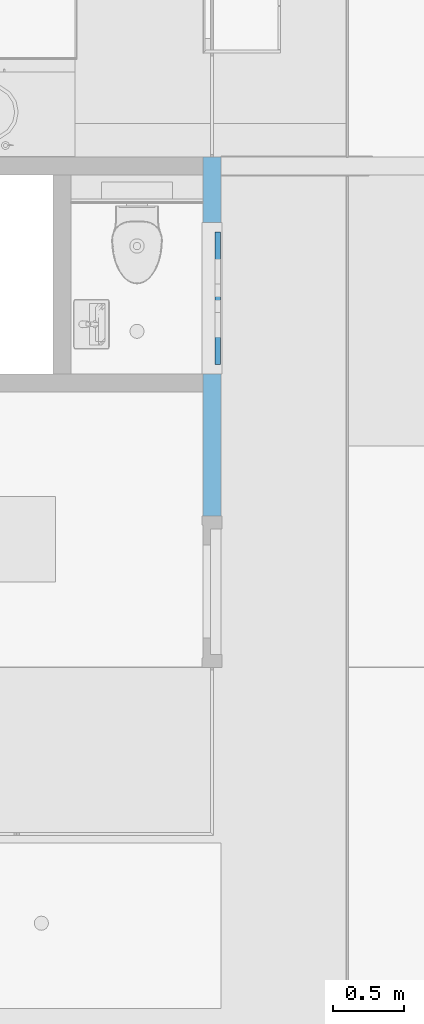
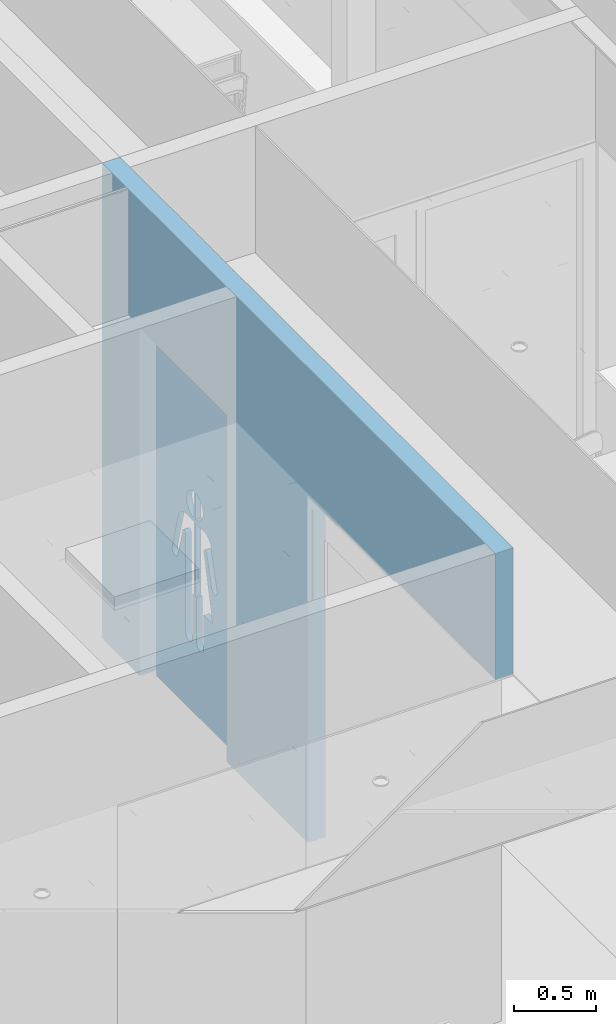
# One storey, part 26 of 260: 1 building element part, 3 openings, 1 element without a shape of its own, plus 1 element that does not belong to this part.
"""IFC2X3 building model written with IfcOpenShell, lengths in millimetres."""

from ifc_helpers import new_model, entity, si_unit, converted_unit, derived_unit, money_unit, direction, frame, origin_with_axes, place, context, subcontext, project, spatial, faceted_brep, material, type_object, element, fill, aggregate, save


model = new_model("IFC2X3")

# Units and contexts
model_context = context("Model", 3, precision=0.01, world=origin_with_axes(), true_north=direction((0.0, 1.0)))
plan_context = context("Plan", 3, precision=0.01, world=origin_with_axes(), true_north=direction((0.0, 1.0)))
body_context = subcontext(model_context, "Body", "Model", "MODEL_VIEW")
ifc_project = project(units=[si_unit("LENGTHUNIT", "METRE", prefix="MILLI"), si_unit("AREAUNIT", "SQUARE_METRE"), si_unit("VOLUMEUNIT", "CUBIC_METRE"), converted_unit("PLANEANGLEUNIT", "DEGREE", entity("IfcPlaneAngleMeasure", 0.0174532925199), si_unit("PLANEANGLEUNIT", "RADIAN"), dimensions=[0, 0, 0, 0, 0, 0, 0]), money_unit("EUR"), converted_unit("TIMEUNIT", "Year", entity("IfcTimeMeasure", 31556926.0), si_unit("TIMEUNIT", "SECOND"), dimensions=[0, 0, 1, 0, 0, 0, 0]), si_unit("MASSUNIT", "GRAM", prefix="KILO"), si_unit("THERMODYNAMICTEMPERATUREUNIT", "DEGREE_CELSIUS"), si_unit("LUMINOUSINTENSITYUNIT", "LUMEN"), si_unit("ENERGYUNIT", "JOULE", prefix="MEGA"), derived_unit("THERMALCONDUCTANCEUNIT", [(si_unit("POWERUNIT", "WATT"), 1), (si_unit("LENGTHUNIT", "METRE"), -1), (si_unit("THERMODYNAMICTEMPERATUREUNIT", "KELVIN"), -1)]), derived_unit("SPECIFICHEATCAPACITYUNIT", [(si_unit("ENERGYUNIT", "JOULE"), 1), (si_unit("MASSUNIT", "GRAM", prefix="KILO"), -1), (si_unit("THERMODYNAMICTEMPERATUREUNIT", "KELVIN"), -1)]), derived_unit("MASSDENSITYUNIT", [(si_unit("MASSUNIT", "GRAM", prefix="KILO"), 1), (si_unit("VOLUMEUNIT", "CUBIC_METRE"), -1)])], contexts=[model_context, plan_context])

# Site, building, storey
site_placement = place(None, origin_with_axes())
site = spatial("IfcSite", under=ifc_project, at=site_placement, Name="Site", CompositionType="ELEMENT")
building_placement = place(site_placement, origin_with_axes())
building = spatial("IfcBuilding", under=site, at=building_placement, Name="Naam gebouw", CompositionType="ELEMENT")
storey_placement = place(building_placement, frame((0.0, 0.0, 3960.0), z_axis=(0.0, 0.0, 1.0), x_axis=(1.0, 0.0, 0.0)))
storey = spatial("IfcBuildingStorey", under=building, at=storey_placement, Name="verdieping", CompositionType="ELEMENT", Elevation=3960.0)

# Wall, openings, door, building element part
ifc_material_1 = material(Name="ALG - LICHTE SCHEIDINGSWAND")
wall_type = type_object("IfcWallType", Name="ALG LSW 125 125", PredefinedType="NOTDEFINED")
wall_placement = place(storey_placement, frame((32075.0, 15290.0, 0.0), z_axis=(0.0, 0.0, 1.0), x_axis=(0.0, 1.0, 0.0)))
wall = element("IfcWall", 1, at=wall_placement, inside=storey, type_object=wall_type, material=ifc_material_1, Name="22_GF 125 ECO DGS/2.75.2A", context=body_context, shape_type="Brep", body=[
    faceted_brep([(2299.0, -125.0, 0.0), (3297.5, -125.0, 0.0), (3297.5, -124.999927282, 2600.0), (4361.5, -124.999927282, 2600.0), (4361.5, -125.0, 0.0), (4822.5, -125.0, 0.0), (4822.5, -125.0, 3560.0), (0.0, -125.0, 3560.0), (0.000133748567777, -124.999927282, 2612.0), (1234.99996939, -124.999927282, 2612.0), (1235.0, -124.999927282, 2600.0), (2299.0, -124.999927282, 2600.0), (2299.0, 0.0, 0.0), (3297.5, 0.0, 0.0), (3297.5, 0.0, 2600.0), (4361.5, 0.0, 2600.0), (4361.5, 0.0, 0.0), (4822.5, 0.0, 0.0), (4822.5, 0.0, 3560.0), (0.0, 0.0, 3560.0), (0.000133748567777, 0.0, 2612.0), (1234.99996939, 0.0, 2612.0), (1235.0, 0.0, 2600.0), (2299.0, 0.0, 2600.0)], [[[0, 1, 2, 3, 4, 5, 6, 7, 8, 9, 10, 11]], [[12, 13, 1, 0]], [[14, 2, 1, 13]], [[15, 3, 2, 14]], [[16, 4, 3, 15]], [[5, 4, 16, 17]], [[17, 18, 6, 5]], [[19, 7, 6, 18]], [[20, 8, 7, 19]], [[9, 8, 20, 21]], [[10, 9, 21, 22]], [[11, 10, 22, 23]], [[0, 11, 23, 12]], [[15, 14, 13, 12, 23, 22, 21, 20, 19, 18, 17, 16]]]),
])
opening_1_placement = place(wall_placement, frame((653.75, 0.0, 0.0), z_axis=(0.0, 0.0, 1.0), x_axis=(1.0, 0.0, 0.0)))
element("IfcOpeningElement", 2, at=opening_1_placement, cuts=wall, Name="31_10.13c", context=body_context, shape_type="Brep", body=[
    faceted_brep([(-403.75, 125.0, 0.0), (581.25, 125.0, 0.0), (581.25, -72.5, 0.0), (-601.25, -72.5, 0.0), (-403.75, 125.0, 2600.0), (581.25, 125.0, 2600.0), (581.25, -72.5, 2600.0), (-601.25, -72.5, 2600.0)], [[[0, 1, 2, 3]], [[4, 5, 1, 0]], [[1, 5, 6, 2]], [[3, 2, 6, 7]], [[0, 3, 7, 4]], [[5, 4, 7, 6]]]),
    faceted_brep([(-653.75, -250.0, 0.0), (-653.75, -250.0, 2600.0), (-653.75, -125.0, 2600.0), (-653.75, -125.0, 0.0), (581.25, -250.0, 0.0), (581.25, -250.0, 2600.0), (581.25, -72.5, 2600.0), (-601.25, -72.5, 2600.0), (-601.25, -72.5, 0.0), (581.25, -72.5, 0.0)], [[[0, 1, 2, 3]], [[0, 4, 5, 1]], [[1, 5, 6, 7, 2]], [[7, 8, 3, 2]], [[4, 0, 3, 8, 9]], [[5, 4, 9, 6]], [[7, 6, 9, 8]]]),
])
opening_2_placement = place(wall_placement, frame((1767.0, 0.0, 0.0), z_axis=(0.0, 0.0, 1.0), x_axis=(1.0, 0.0, 0.0)))
element("IfcOpeningElement", 3, at=opening_2_placement, cuts=wall, Name="32_02.01", context=body_context, shape_type="Brep", body=[
    faceted_brep([(532.0, -125.0, 2600.0), (532.0, -125.0, 0.0), (532.0, 257.0, 0.0), (532.0, 257.0, 2600.0), (-532.0, -125.0, 2600.0), (-532.0, -125.0, 0.0), (-532.0, 257.0, 0.0), (-532.0, 257.0, 2600.0)], [[[0, 1, 2, 3]], [[0, 4, 5, 1]], [[1, 5, 6, 2]], [[3, 2, 6, 7]], [[4, 0, 3, 7]], [[5, 4, 7, 6]]]),
])
opening_3_placement = place(wall_placement, frame((3829.5, 0.0, 0.0), z_axis=(0.0, 0.0, 1.0), x_axis=(1.0, 0.0, 0.0)))
opening_3 = element("IfcOpeningElement", 4, at=opening_3_placement, cuts=wall, Name="32_01.05", context=body_context, shape_type="Brep", body=[
    faceted_brep([(532.0, -257.0, 2600.0), (532.0, -257.0, 0.0), (532.0, 125.0, 0.0), (532.0, 125.0, 2600.0), (-532.0, -257.0, 2600.0), (-532.0, -257.0, 0.0), (-532.0, 125.0, 0.0), (-532.0, 125.0, 2600.0)], [[[0, 1, 2, 3]], [[0, 4, 5, 1]], [[1, 5, 6, 2]], [[3, 2, 6, 7]], [[4, 0, 3, 7]], [[5, 4, 7, 6]]]),
])
door_style = type_object("IfcDoorStyle", Name="D1 25", ConstructionType="NOTDEFINED", OperationType="SINGLE_SWING_LEFT", ParameterTakesPrecedence=False, Sizeable=False)
door_placement = place(opening_3_placement, frame((532.0, 0.0, 0.0), z_axis=(0.0, 0.0, 1.0), x_axis=(-1.0, 0.0, 0.0)))
door = element("IfcDoor", 5, at=door_placement, inside=storey, type_object=door_style, Name="32_01.05", ObjectType="DOOR", OverallHeight=2600.0, OverallWidth=1064.0)
fill(opening_3, door)
ifc_material_2 = material(Name="Hout C")
building_element_part_placement = place(door_placement, origin_with_axes())
building_element_part = element("IfcBuildingElementPart", 6, at=building_element_part_placement, material=ifc_material_2, Name="Hout C", context=body_context, shape_type="Brep", body=[
    faceted_brep([(65.0, 122.0, 2535.0), (65.0, 122.0, 10.0), (65.0, 82.0, 10.0), (65.0, 82.0, 2535.0), (999.0, 122.0, 2535.0), (999.0, 122.0, 10.0), (542.043020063, 122.0, 890.229090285), (557.10752188, 122.0, 890.229090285), (557.10752188, 122.0, 563.286854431), (556.693281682, 122.0, 559.546364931), (557.174283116, 122.0, 552.034934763), (558.950151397, 122.0, 544.721284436), (561.96692765, 122.0, 537.827635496), (566.132948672, 122.0, 531.563447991), (571.321632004, 122.0, 526.119056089), (577.375322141, 122.0, 521.659884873), (584.110080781, 122.0, 518.321424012), (591.321275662, 122.0, 516.205110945), (598.78979831, 122.0, 515.375248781), (606.288721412, 122.0, 515.857052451), (613.590194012, 122.0, 517.635882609), (620.472364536, 122.0, 520.657690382), (626.726121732, 122.0, 524.830659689), (632.161448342, 122.0, 530.027996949), (636.613194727, 122.0, 536.091783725), (639.946096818, 122.0, 542.8377749), (642.058886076, 122.0, 550.06099695), (642.887366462, 122.0, 557.54197595), (642.473126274, 122.0, 563.286854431), (642.473126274, 122.0, 814.780876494), (751.866038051, 122.0, 814.780876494), (640.013455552, 122.0, 1292.61952191), (640.785274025, 122.0, 1296.47224326), (642.199691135, 122.0, 1299.82482097), (644.173819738, 122.0, 1302.8804449), (646.647676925, 122.0, 1305.54627145), (649.546095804, 122.0, 1307.74130085), (652.781009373, 122.0, 1309.39883823), (656.254126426, 122.0, 1310.46852015), (659.859918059, 122.0, 1310.91784487), (663.488824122, 122.0, 1310.73315989), (667.030582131, 122.0, 1309.92007677), (670.377577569, 122.0, 1308.50330061), (673.428113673, 122.0, 1306.52587948), (676.089501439, 122.0, 1304.04789628), (678.280875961, 122.0, 1301.14464328), (679.935653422, 122.0, 1297.90433437), (681.003554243, 122.0, 1294.42542469), (681.227842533, 122.0, 1292.61952191), (739.923578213, 122.0, 1073.19870027), (740.719139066, 122.0, 1070.22315824), (743.317762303, 122.0, 1064.63924071), (746.844929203, 122.0, 1059.59215425), (751.193468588, 122.0, 1055.235252), (756.231252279, 122.0, 1051.70091623), (761.805209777, 122.0, 1049.09653598), (767.745979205, 122.0, 1047.50124399), (773.873053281, 122.0, 1046.96351241), (780.000263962, 122.0, 1047.49967995), (785.941439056, 122.0, 1049.09345542), (791.516058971, 122.0, 1051.69641276), (796.554741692, 122.0, 1055.22946244), (800.904389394, 122.0, 1059.58525451), (804.432840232, 122.0, 1064.63144045), (807.032884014, 122.0, 1070.21469446), (808.625519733, 122.0, 1076.16537218), (809.162355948, 122.0, 1082.30266527), (808.62708117, 122.0, 1088.44009521), (807.831520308, 122.0, 1091.41563724), (733.58891637, 122.0, 1368.954906), (731.31480372, 122.0, 1377.45616444), (723.888136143, 122.0, 1393.40926659), (713.808681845, 122.0, 1407.82822709), (701.382699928, 122.0, 1420.27493311), (686.98774758, 122.0, 1430.37119778), (671.061208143, 122.0, 1437.81025123), (654.087001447, 122.0, 1442.36606156), (636.580882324, 122.0, 1443.51593625), (542.043020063, 122.0, 1443.51593625), (542.043020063, 122.0, 1669.35630499), (542.043020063, 122.0, 1469.16959144), (550.785473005, 122.0, 1470.04970729), (567.699591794, 122.0, 1474.82448312), (583.528996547, 122.0, 1482.46872393), (597.792718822, 122.0, 1492.75016333), (610.057362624, 122.0, 1505.35640498), (619.950272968, 122.0, 1519.90441461), (627.170858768, 122.0, 1535.9521583), (631.499726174, 122.0, 1553.01203348), (632.430107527, 122.0, 1569.26294821), (632.430107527, 122.0, 1578.06409863), (629.378589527, 122.0, 1595.39898096), (623.368272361, 122.0, 1611.93973315), (614.581776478, 122.0, 1627.18377283), (603.286075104, 122.0, 1640.66791757), (589.824382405, 122.0, 1651.98245845), (574.605725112, 122.0, 1660.78360886), (558.092514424, 122.0, 1666.80395031), (521.956979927, 122.0, 1669.35630499), (513.214526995, 122.0, 1668.47618914), (496.300408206, 122.0, 1663.7014133), (480.471003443, 122.0, 1656.05717249), (466.207281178, 122.0, 1645.77573309), (453.942637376, 122.0, 1633.16949145), (444.049727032, 122.0, 1618.62148182), (436.829141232, 122.0, 1602.57373813), (432.500273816, 122.0, 1585.51386294), (431.569892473, 122.0, 1569.26294821), (431.569892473, 122.0, 1560.4617978), (434.621410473, 122.0, 1543.12691547), (440.631727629, 122.0, 1526.58616327), (449.418223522, 122.0, 1511.34212359), (460.713924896, 122.0, 1497.85797885), (474.175617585, 122.0, 1486.54343798), (489.394274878, 122.0, 1477.74228756), (505.907485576, 122.0, 1471.72194611), (521.956979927, 122.0, 1469.16959144), (255.37447873, 122.0, 1088.44895872), (254.837642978, 122.0, 1082.31166558), (255.372918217, 122.0, 1076.17423568), (256.964040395, 122.0, 1070.22315174), (259.562664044, 122.0, 1064.63923441), (263.089831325, 122.0, 1059.59214821), (267.438371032, 122.0, 1055.23524628), (272.476154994, 122.0, 1051.70091091), (278.050112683, 122.0, 1049.09653107), (283.990882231, 122.0, 1047.50123953), (290.117956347, 122.0, 1046.96350842), (296.245166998, 122.0, 1047.49967641), (302.186341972, 122.0, 1049.09345233), (307.760961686, 122.0, 1051.6964101), (312.799644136, 122.0, 1055.22946015), (317.149291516, 122.0, 1059.58525256), (320.677741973, 122.0, 1064.63143877), (323.277785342, 122.0, 1070.21469297), (324.076421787, 122.0, 1073.19870026), (382.988163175, 122.0, 1292.61952191), (383.650624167, 122.0, 1295.95494878), (384.952051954, 122.0, 1299.10211348), (386.779297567, 122.0, 1301.97509819), (389.076841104, 122.0, 1304.48660874), (391.774872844, 122.0, 1306.56033414), (394.791414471, 122.0, 1308.13326528), (398.034809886, 122.0, 1309.15760948), (401.406510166, 122.0, 1309.60224253), (404.804067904, 122.0, 1309.45365449), (408.124250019, 122.0, 1308.71636013), (411.266174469, 122.0, 1307.41276178), (414.134375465, 122.0, 1305.58246859), (416.641704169, 122.0, 1303.2810931), (418.711976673, 122.0, 1300.57856146), (420.282288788, 122.0, 1297.5569887), (421.304927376, 122.0, 1294.3081838), (421.526873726, 122.0, 1292.61952191), (421.526873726, 122.0, 563.286854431), (421.112633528, 122.0, 559.546364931), (421.593634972, 122.0, 552.034934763), (423.369503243, 122.0, 544.721284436), (426.386279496, 122.0, 537.827635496), (430.552300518, 122.0, 531.563447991), (435.74098386, 122.0, 526.119056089), (441.794673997, 122.0, 521.659884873), (448.529432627, 122.0, 518.321424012), (455.740627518, 122.0, 516.205110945), (463.209150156, 122.0, 515.375248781), (470.708073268, 122.0, 515.857052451), (478.009545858, 122.0, 517.635882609), (484.891716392, 122.0, 520.657690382), (491.145473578, 122.0, 524.830659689), (496.580800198, 122.0, 530.027996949), (501.032546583, 122.0, 536.091783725), (504.365448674, 122.0, 542.8377749), (506.478237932, 122.0, 550.06099695), (507.306718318, 122.0, 557.54197595), (506.89247812, 122.0, 563.286854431), (506.89247812, 122.0, 890.229090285), (521.956979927, 122.0, 890.229090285), (521.956979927, 122.0, 1443.51593625), (427.419117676, 122.0, 1443.51593625), (418.632621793, 122.0, 1443.51593625), (401.326603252, 122.0, 1440.4593288), (384.813392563, 122.0, 1434.43898735), (369.594735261, 122.0, 1425.63783693), (356.133042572, 122.0, 1414.32329606), (344.837341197, 122.0, 1400.83915132), (336.050845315, 122.0, 1385.59511164), (330.41108363, 122.0, 1368.954906), (999.0, 82.0, 10.0), (999.0, 82.0, 2535.0), (542.043020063, 82.0, 890.229090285), (542.043020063, 82.0, 1443.51593625), (636.580882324, 82.0, 1443.51593625), (654.087001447, 82.0, 1442.36606156), (671.061208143, 82.0, 1437.81025123), (686.98774758, 82.0, 1430.37119778), (701.382699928, 82.0, 1420.27493311), (713.808681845, 82.0, 1407.82822709), (723.888136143, 82.0, 1393.40926659), (731.31480372, 82.0, 1377.45616444), (733.58891637, 82.0, 1368.954906), (807.831520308, 82.0, 1091.41563724), (808.62708117, 82.0, 1088.44009521), (809.162355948, 82.0, 1082.30266527), (808.625519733, 82.0, 1076.16537218), (807.032884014, 82.0, 1070.21469446), (804.432840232, 82.0, 1064.63144045), (800.904389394, 82.0, 1059.58525451), (796.554741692, 82.0, 1055.22946244), (791.516058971, 82.0, 1051.69641276), (785.941439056, 82.0, 1049.09345542), (780.000263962, 82.0, 1047.49967995), (773.873053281, 82.0, 1046.96351241), (767.745979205, 82.0, 1047.50124399), (761.805209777, 82.0, 1049.09653598), (756.231252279, 82.0, 1051.70091623), (751.193468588, 82.0, 1055.235252), (746.844929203, 82.0, 1059.59215425), (743.317762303, 82.0, 1064.63924071), (740.719139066, 82.0, 1070.22315824), (739.923578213, 82.0, 1073.19870027), (681.227842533, 82.0, 1292.61952191), (681.003554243, 82.0, 1294.42542469), (679.935653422, 82.0, 1297.90433437), (678.280875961, 82.0, 1301.14464328), (676.089501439, 82.0, 1304.04789628), (673.428113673, 82.0, 1306.52587948), (670.377577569, 82.0, 1308.50330061), (667.030582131, 82.0, 1309.92007677), (663.488824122, 82.0, 1310.73315989), (659.859918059, 82.0, 1310.91784487), (656.254126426, 82.0, 1310.46852015), (652.781009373, 82.0, 1309.39883823), (649.546095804, 82.0, 1307.74130085), (646.647676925, 82.0, 1305.54627145), (644.173819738, 82.0, 1302.8804449), (642.199691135, 82.0, 1299.82482097), (640.785274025, 82.0, 1296.47224326), (640.013455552, 82.0, 1292.61952191), (751.866038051, 82.0, 814.780876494), (642.473126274, 82.0, 814.780876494), (642.473126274, 82.0, 563.286854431), (642.887366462, 82.0, 557.54197595), (642.058886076, 82.0, 550.06099695), (639.946096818, 82.0, 542.8377749), (636.613194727, 82.0, 536.091783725), (632.161448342, 82.0, 530.027996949), (626.726121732, 82.0, 524.830659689), (620.472364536, 82.0, 520.657690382), (613.590194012, 82.0, 517.635882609), (606.288721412, 82.0, 515.857052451), (598.78979831, 82.0, 515.375248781), (591.321275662, 82.0, 516.205110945), (584.110080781, 82.0, 518.321424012), (577.375322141, 82.0, 521.659884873), (571.321632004, 82.0, 526.119056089), (566.132948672, 82.0, 531.563447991), (561.96692765, 82.0, 537.827635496), (558.950151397, 82.0, 544.721284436), (557.174283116, 82.0, 552.034934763), (556.693281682, 82.0, 559.546364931), (557.10752188, 82.0, 563.286854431), (557.10752188, 82.0, 890.229090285), (542.043020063, 82.0, 1669.35630499), (558.092514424, 82.0, 1666.80395031), (574.605725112, 82.0, 1660.78360886), (589.824382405, 82.0, 1651.98245845), (603.286075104, 82.0, 1640.66791757), (614.581776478, 82.0, 1627.18377283), (623.368272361, 82.0, 1611.93973315), (629.378589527, 82.0, 1595.39898096), (632.430107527, 82.0, 1578.06409863), (632.430107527, 82.0, 1569.26294821), (631.499726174, 82.0, 1553.01203348), (627.170858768, 82.0, 1535.9521583), (619.950272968, 82.0, 1519.90441461), (610.057362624, 82.0, 1505.35640498), (597.792718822, 82.0, 1492.75016333), (583.528996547, 82.0, 1482.46872393), (567.699591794, 82.0, 1474.82448312), (550.785473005, 82.0, 1470.04970729), (542.043020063, 82.0, 1469.16959144), (521.956979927, 82.0, 1669.35630499), (521.956979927, 82.0, 1469.16959144), (505.907485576, 82.0, 1471.72194611), (489.394274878, 82.0, 1477.74228756), (474.175617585, 82.0, 1486.54343798), (460.713924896, 82.0, 1497.85797885), (449.418223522, 82.0, 1511.34212359), (440.631727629, 82.0, 1526.58616327), (434.621410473, 82.0, 1543.12691547), (431.569892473, 82.0, 1560.4617978), (431.569892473, 82.0, 1569.26294821), (432.500273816, 82.0, 1585.51386294), (436.829141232, 82.0, 1602.57373813), (444.049727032, 82.0, 1618.62148182), (453.942637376, 82.0, 1633.16949145), (466.207281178, 82.0, 1645.77573309), (480.471003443, 82.0, 1656.05717249), (496.300408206, 82.0, 1663.7014133), (513.214526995, 82.0, 1668.47618914), (255.37447873, 82.0, 1088.44895872), (330.41108363, 82.0, 1368.954906), (336.050845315, 82.0, 1385.59511164), (344.837341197, 82.0, 1400.83915132), (356.133042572, 82.0, 1414.32329606), (369.594735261, 82.0, 1425.63783693), (384.813392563, 82.0, 1434.43898735), (401.326603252, 82.0, 1440.4593288), (418.632621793, 82.0, 1443.51593625), (427.419117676, 82.0, 1443.51593625), (521.956979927, 82.0, 1443.51593625), (521.956979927, 82.0, 890.229090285), (506.89247812, 82.0, 890.229090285), (506.89247812, 82.0, 563.286854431), (507.306718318, 82.0, 557.54197595), (506.478237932, 82.0, 550.06099695), (504.365448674, 82.0, 542.8377749), (501.032546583, 82.0, 536.091783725), (496.580800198, 82.0, 530.027996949), (491.145473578, 82.0, 524.830659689), (484.891716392, 82.0, 520.657690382), (478.009545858, 82.0, 517.635882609), (470.708073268, 82.0, 515.857052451), (463.209150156, 82.0, 515.375248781), (455.740627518, 82.0, 516.205110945), (448.529432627, 82.0, 518.321424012), (441.794673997, 82.0, 521.659884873), (435.74098386, 82.0, 526.119056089), (430.552300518, 82.0, 531.563447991), (426.386279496, 82.0, 537.827635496), (423.369503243, 82.0, 544.721284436), (421.593634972, 82.0, 552.034934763), (421.112633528, 82.0, 559.546364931), (421.526873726, 82.0, 563.286854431), (421.526873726, 82.0, 1292.61952191), (421.304927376, 82.0, 1294.3081838), (420.282288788, 82.0, 1297.5569887), (418.711976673, 82.0, 1300.57856146), (416.641704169, 82.0, 1303.2810931), (414.134375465, 82.0, 1305.58246859), (411.266174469, 82.0, 1307.41276178), (408.124250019, 82.0, 1308.71636013), (404.804067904, 82.0, 1309.45365449), (401.406510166, 82.0, 1309.60224253), (398.034809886, 82.0, 1309.15760948), (394.791414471, 82.0, 1308.13326528), (391.774872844, 82.0, 1306.56033414), (389.076841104, 82.0, 1304.48660874), (386.779297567, 82.0, 1301.97509819), (384.952051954, 82.0, 1299.10211348), (383.650624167, 82.0, 1295.95494878), (382.988163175, 82.0, 1292.61952191), (324.076421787, 82.0, 1073.19870026), (323.277785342, 82.0, 1070.21469297), (320.677741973, 82.0, 1064.63143877), (317.149291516, 82.0, 1059.58525256), (312.799644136, 82.0, 1055.22946015), (307.760961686, 82.0, 1051.6964101), (302.186341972, 82.0, 1049.09345233), (296.245166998, 82.0, 1047.49967641), (290.117956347, 82.0, 1046.96350842), (283.990882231, 82.0, 1047.50123953), (278.050112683, 82.0, 1049.09653107), (272.476154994, 82.0, 1051.70091091), (267.438371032, 82.0, 1055.23524628), (263.089831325, 82.0, 1059.59214821), (259.562664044, 82.0, 1064.63923441), (256.964040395, 82.0, 1070.22315174), (255.372918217, 82.0, 1076.17423568), (254.837642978, 82.0, 1082.31166558)], [[[0, 1, 2, 3]], [[0, 4, 5, 1], [6, 7, 8, 9, 10, 11, 12, 13, 14, 15, 16, 17, 18, 19, 20, 21, 22, 23, 24, 25, 26, 27, 28, 29, 30, 31, 32, 33, 34, 35, 36, 37, 38, 39, 40, 41, 42, 43, 44, 45, 46, 47, 48, 49, 50, 51, 52, 53, 54, 55, 56, 57, 58, 59, 60, 61, 62, 63, 64, 65, 66, 67, 68, 69, 70, 71, 72, 73, 74, 75, 76, 77, 78], [79, 80, 81, 82, 83, 84, 85, 86, 87, 88, 89, 90, 91, 92, 93, 94, 95, 96, 97], [98, 99, 100, 101, 102, 103, 104, 105, 106, 107, 108, 109, 110, 111, 112, 113, 114, 115, 116], [117, 118, 119, 120, 121, 122, 123, 124, 125, 126, 127, 128, 129, 130, 131, 132, 133, 134, 135, 136, 137, 138, 139, 140, 141, 142, 143, 144, 145, 146, 147, 148, 149, 150, 151, 152, 153, 154, 155, 156, 157, 158, 159, 160, 161, 162, 163, 164, 165, 166, 167, 168, 169, 170, 171, 172, 173, 174, 175, 176, 177, 178, 179, 180, 181, 182, 183, 184, 185, 186]], [[1, 5, 187, 2]], [[3, 2, 187, 188], [189, 190, 191, 192, 193, 194, 195, 196, 197, 198, 199, 200, 201, 202, 203, 204, 205, 206, 207, 208, 209, 210, 211, 212, 213, 214, 215, 216, 217, 218, 219, 220, 221, 222, 223, 224, 225, 226, 227, 228, 229, 230, 231, 232, 233, 234, 235, 236, 237, 238, 239, 240, 241, 242, 243, 244, 245, 246, 247, 248, 249, 250, 251, 252, 253, 254, 255, 256, 257, 258, 259, 260, 261], [262, 263, 264, 265, 266, 267, 268, 269, 270, 271, 272, 273, 274, 275, 276, 277, 278, 279, 280], [281, 282, 283, 284, 285, 286, 287, 288, 289, 290, 291, 292, 293, 294, 295, 296, 297, 298, 299], [300, 301, 302, 303, 304, 305, 306, 307, 308, 309, 310, 311, 312, 313, 314, 315, 316, 317, 318, 319, 320, 321, 322, 323, 324, 325, 326, 327, 328, 329, 330, 331, 332, 333, 334, 335, 336, 337, 338, 339, 340, 341, 342, 343, 344, 345, 346, 347, 348, 349, 350, 351, 352, 353, 354, 355, 356, 357, 358, 359, 360, 361, 362, 363, 364, 365, 366, 367, 368, 369]], [[4, 0, 3, 188]], [[5, 4, 188, 187]], [[7, 6, 189, 261]], [[8, 7, 261, 260]], [[9, 8, 260, 259]], [[10, 9, 259, 258]], [[11, 10, 258, 257]], [[12, 11, 257, 256]], [[13, 12, 256, 255]], [[14, 13, 255, 254]], [[15, 14, 254, 253]], [[16, 15, 253, 252]], [[17, 16, 252, 251]], [[18, 17, 251, 250]], [[19, 18, 250, 249]], [[20, 19, 249, 248]], [[21, 20, 248, 247]], [[22, 21, 247, 246]], [[23, 22, 246, 245]], [[24, 23, 245, 244]], [[25, 24, 244, 243]], [[26, 25, 243, 242]], [[27, 26, 242, 241]], [[28, 27, 241, 240]], [[29, 28, 240, 239]], [[30, 29, 239, 238]], [[31, 30, 238, 237]], [[32, 31, 237, 236]], [[33, 32, 236, 235]], [[34, 33, 235, 234]], [[35, 34, 234, 233]], [[36, 35, 233, 232]], [[37, 36, 232, 231]], [[38, 37, 231, 230]], [[39, 38, 230, 229]], [[40, 39, 229, 228]], [[41, 40, 228, 227]], [[42, 41, 227, 226]], [[43, 42, 226, 225]], [[44, 43, 225, 224]], [[45, 44, 224, 223]], [[46, 45, 223, 222]], [[47, 46, 222, 221]], [[48, 47, 221, 220]], [[49, 48, 220, 219]], [[50, 49, 219, 218]], [[51, 50, 218, 217]], [[52, 51, 217, 216]], [[53, 52, 216, 215]], [[54, 53, 215, 214]], [[55, 54, 214, 213]], [[56, 55, 213, 212]], [[57, 56, 212, 211]], [[58, 57, 211, 210]], [[59, 58, 210, 209]], [[60, 59, 209, 208]], [[61, 60, 208, 207]], [[62, 61, 207, 206]], [[63, 62, 206, 205]], [[64, 63, 205, 204]], [[65, 64, 204, 203]], [[66, 65, 203, 202]], [[67, 66, 202, 201]], [[68, 67, 201, 200]], [[69, 68, 200, 199]], [[70, 69, 199, 198]], [[71, 70, 198, 197]], [[72, 71, 197, 196]], [[73, 72, 196, 195]], [[74, 73, 195, 194]], [[75, 74, 194, 193]], [[76, 75, 193, 192]], [[77, 76, 192, 191]], [[78, 77, 191, 190]], [[6, 78, 190, 189]], [[80, 79, 262, 280]], [[81, 80, 280, 279]], [[82, 81, 279, 278]], [[83, 82, 278, 277]], [[84, 83, 277, 276]], [[85, 84, 276, 275]], [[86, 85, 275, 274]], [[87, 86, 274, 273]], [[88, 87, 273, 272]], [[89, 88, 272, 271]], [[90, 89, 271, 270]], [[91, 90, 270, 269]], [[92, 91, 269, 268]], [[93, 92, 268, 267]], [[94, 93, 267, 266]], [[95, 94, 266, 265]], [[96, 95, 265, 264]], [[97, 96, 264, 263]], [[79, 97, 263, 262]], [[99, 98, 281, 299]], [[100, 99, 299, 298]], [[101, 100, 298, 297]], [[102, 101, 297, 296]], [[103, 102, 296, 295]], [[104, 103, 295, 294]], [[105, 104, 294, 293]], [[106, 105, 293, 292]], [[107, 106, 292, 291]], [[108, 107, 291, 290]], [[109, 108, 290, 289]], [[110, 109, 289, 288]], [[111, 110, 288, 287]], [[112, 111, 287, 286]], [[113, 112, 286, 285]], [[114, 113, 285, 284]], [[115, 114, 284, 283]], [[116, 115, 283, 282]], [[98, 116, 282, 281]], [[118, 117, 300, 369]], [[119, 118, 369, 368]], [[120, 119, 368, 367]], [[121, 120, 367, 366]], [[122, 121, 366, 365]], [[123, 122, 365, 364]], [[124, 123, 364, 363]], [[125, 124, 363, 362]], [[126, 125, 362, 361]], [[127, 126, 361, 360]], [[128, 127, 360, 359]], [[129, 128, 359, 358]], [[130, 129, 358, 357]], [[131, 130, 357, 356]], [[132, 131, 356, 355]], [[133, 132, 355, 354]], [[134, 133, 354, 353]], [[135, 134, 353, 352]], [[136, 135, 352, 351]], [[137, 136, 351, 350]], [[138, 137, 350, 349]], [[139, 138, 349, 348]], [[140, 139, 348, 347]], [[141, 140, 347, 346]], [[142, 141, 346, 345]], [[143, 142, 345, 344]], [[144, 143, 344, 343]], [[145, 144, 343, 342]], [[146, 145, 342, 341]], [[147, 146, 341, 340]], [[148, 147, 340, 339]], [[149, 148, 339, 338]], [[150, 149, 338, 337]], [[151, 150, 337, 336]], [[152, 151, 336, 335]], [[153, 152, 335, 334]], [[154, 153, 334, 333]], [[155, 154, 333, 332]], [[156, 155, 332, 331]], [[157, 156, 331, 330]], [[158, 157, 330, 329]], [[159, 158, 329, 328]], [[160, 159, 328, 327]], [[161, 160, 327, 326]], [[162, 161, 326, 325]], [[163, 162, 325, 324]], [[164, 163, 324, 323]], [[165, 164, 323, 322]], [[166, 165, 322, 321]], [[167, 166, 321, 320]], [[168, 167, 320, 319]], [[169, 168, 319, 318]], [[170, 169, 318, 317]], [[171, 170, 317, 316]], [[172, 171, 316, 315]], [[173, 172, 315, 314]], [[174, 173, 314, 313]], [[175, 174, 313, 312]], [[176, 175, 312, 311]], [[177, 176, 311, 310]], [[178, 177, 310, 309]], [[179, 178, 309, 308]], [[180, 179, 308, 307]], [[181, 180, 307, 306]], [[182, 181, 306, 305]], [[183, 182, 305, 304]], [[184, 183, 304, 303]], [[185, 184, 303, 302]], [[186, 185, 302, 301]], [[117, 186, 301, 300]]]),
])
aggregate(door, [building_element_part])

save(model, "model.ifc")
